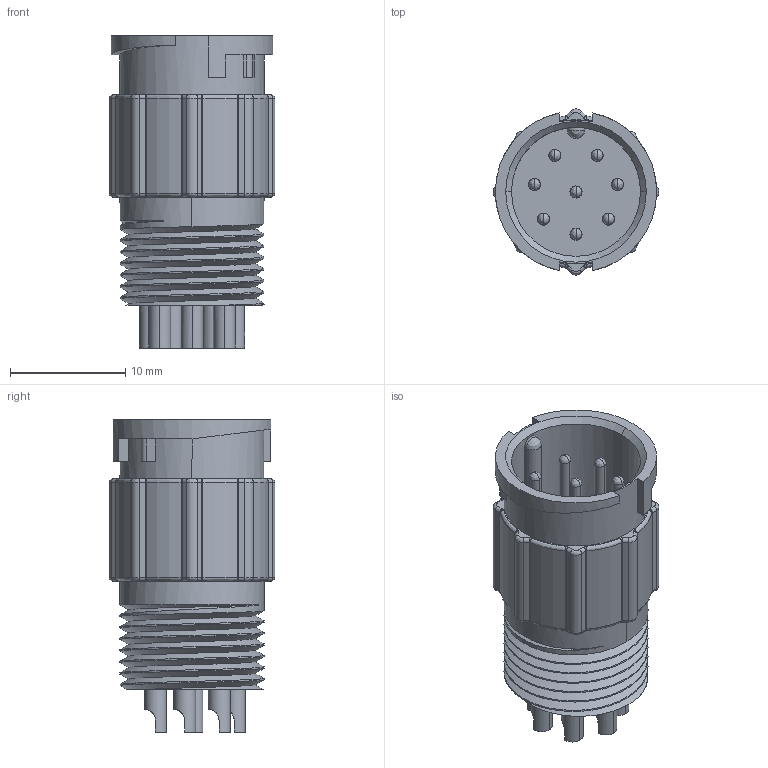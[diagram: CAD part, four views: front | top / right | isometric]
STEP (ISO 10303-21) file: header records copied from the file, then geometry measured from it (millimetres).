
FILE_DESCRIPTION (( 'STEP AP203' ), '1' );
FILE_NAME ('868-008-103R001.STEP', '2025-12-17T18:29:06', ( '' ), ( '' ), 'SwSTEP 2.0', 'SolidWorks 2020', '' );
FILE_SCHEMA (( 'CONFIG_CONTROL_DESIGN' ));
Length unit declared in the file: millimetre
Products named in the file (1): 868-008-103R001
Bounding box: 14.39 x 14.39 x 27.1 mm (x, y, z)
Volume: 2052 mm3; surface area: 3062.7 mm2
Topology: 1 solids, 1 shells, 424 faces, 1026 edges, 599 vertices
Faces by surface type: cylinder 194, bspline 91, plane 72, cone 67
Entity records: 18706 total; most frequent: CARTESIAN_POINT 9431, ORIENTED_EDGE 1986, DIRECTION 1854, EDGE_CURVE 993, AXIS2_PLACEMENT_3D 724, VERTEX_POINT 599, EDGE_LOOP 452, ADVANCED_FACE 424
